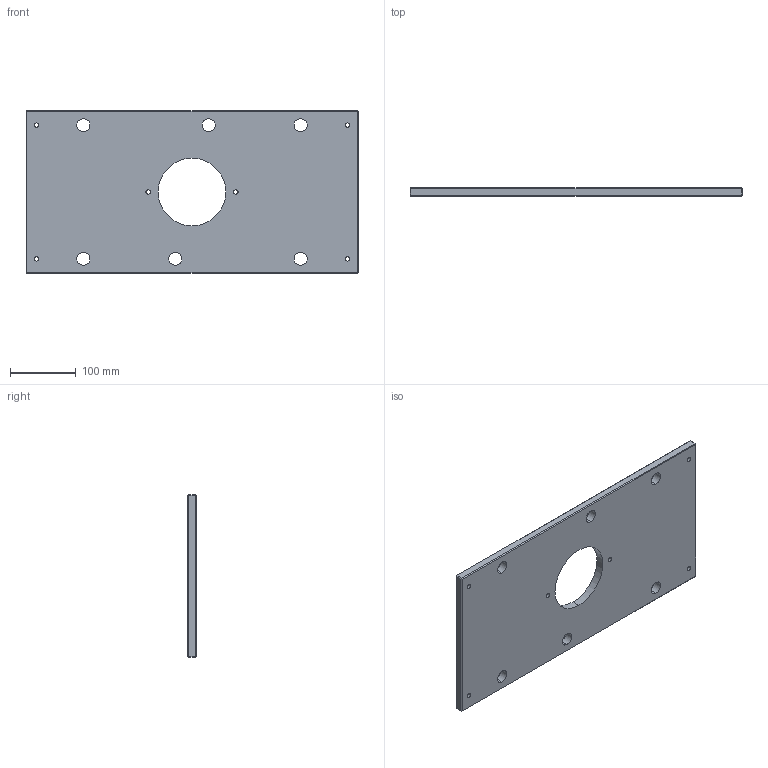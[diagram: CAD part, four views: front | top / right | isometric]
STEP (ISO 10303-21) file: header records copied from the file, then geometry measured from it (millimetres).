
FILE_DESCRIPTION (( 'STEP AP214' ), '1' );
FILE_NAME ('ME-0619-CH-1020-B.STEP', '2020-02-12T08:25:38', ( '' ), ( '' ), 'SwSTEP 2.0', 'SolidWorks 2018', '' );
FILE_SCHEMA (( 'AUTOMOTIVE_DESIGN' ));
Length unit declared in the file: inch
Products named in the file (1): ME-0619-CH-1020-B
Bounding box: 504.82 x 12.7 x 247.65 mm (x, y, z)
Volume: 1451503 mm3; surface area: 256346.8 mm2
Topology: 1 solids, 1 shells, 64 faces, 150 edges, 88 vertices
Faces by surface type: cylinder 26, plane 26, cone 12
Entity records: 1902 total; most frequent: DIRECTION 344, CARTESIAN_POINT 303, ORIENTED_EDGE 300, EDGE_CURVE 150, AXIS2_PLACEMENT_3D 129, EDGE_LOOP 90, VERTEX_POINT 88, VECTOR 86
